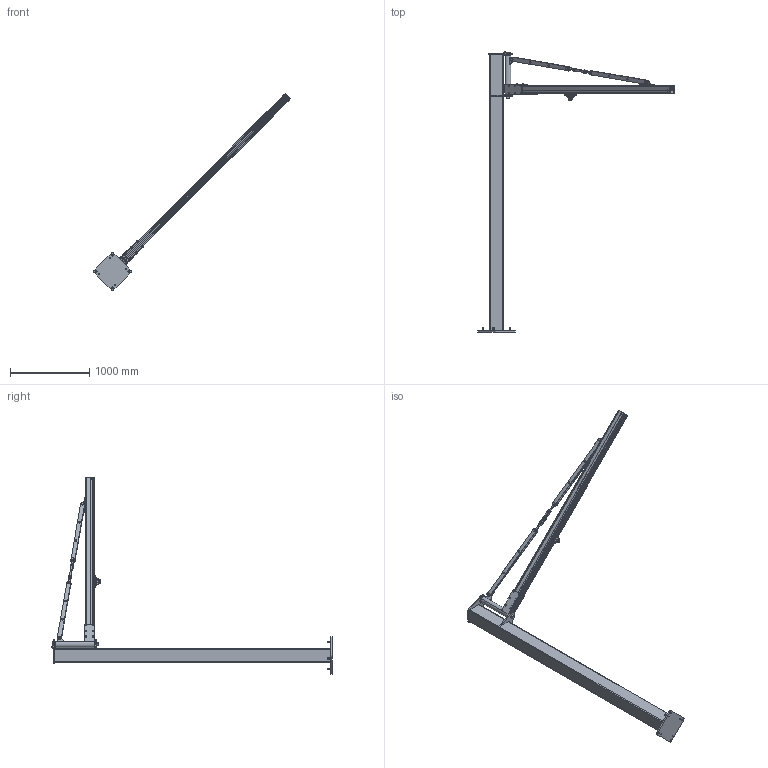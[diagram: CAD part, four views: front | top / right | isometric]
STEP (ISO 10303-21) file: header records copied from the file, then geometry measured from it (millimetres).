
FILE_DESCRIPTION (( 'STEP AP203' ), '1' );
FILE_NAME ('900.3000.3000.125.STEP', '2018-03-09T13:18:00', ( '' ), ( '' ), 'SwSTEP 2.0', 'SolidWorks 2016', '' );
FILE_SCHEMA (( 'CONFIG_CONTROL_DESIGN' ));
Length unit declared in the file: millimetre
Products named in the file (42): circlip for shafts normal_din_Circlip DIN 471 - 20 x 1.2; 900.200.017; VITI TE UNI 5739_M8x30 UNI 5739; GRANI A PUNTA CONICA UNI 5927_M6x16 UNI 5927; 900.3000.3000.125; 900.300.102-1; 900.3000.3000.125.008; VITI TE UNI 5739_M8x25 UNI 5739; 900.3000.3000.125.007; 900.100.021; 900.400.002; CUSCINETTI A SFERE_6002-2Z; circlip for shafts normal_din_Circlip DIN 471 - 15 x 1; tensioner_114410020_2; 900.200.003-2; DADI ESAGONALI AUTOBLOCCANTI UNI 7473_M12 UNI 7473; tensioner_114410020_3; plain washer chamfered grade a_iso_Washer ISO 7090 - 6; Assieme3^900.200.103; 900.200.005; 900.3000.3000.125.006; RONDELLE UNI 6592_13x24 UNI 6592; VITI TE UNI 5739_M12x50 UNI 5739; Tensionatore; DADO ESAGONALE M20 AUTOBLOCCANTE_M20 UNI7473; 900.3000.3000.125.001_Default<A macchina>; VITI TE UNI 5739_M6x40 UNI 5739; CUSCINETTI A SFERE_686-ZZ; RONDELLE UNI 6592_8.4x17 UNI 6592; 900.3000.3000.125.004; 900.200.004-2; 900.300.003; 900.200.103; DADI ESAGONALI NORMALI UNI 5588_M12 UNI 5588; 900.3000.3000.125.005; tensioner_114410020_1; RONDELLE UNI 6592 INOX_6.4x12.5 UNI 6592 INOX; 900.3000.3000.125.003_Default<A macchina>; PUFFER FEMMINA_M6; 900.3000.3000.125.002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
Assembly tree (118 placements, depth 4):
  900.3000.3000.125
    900.3000.3000.125.001_Default<A macchina>
    900.3000.3000.125.002
    900.3000.3000.125.003_Default<A macchina>
    900.3000.3000.125.004
    900.3000.3000.125.005
    900.400.002
    Tensionatore
      tensioner_114410020_1
      tensioner_114410020_2
      tensioner_114410020_3
    900.3000.3000.125.006  x2
    VITI TE UNI 5739_M20X60 UNI 5739  x4
    DADO ESAGONALE M20 AUTOBLOCCANTE_M20 UNI7473  x4
    VITI TE UNI 5739_M12x50 UNI 5739  x8
    DADI ESAGONALI AUTOBLOCCANTI UNI 7473_M12 UNI 7473  x4
    VITI TE UNI 5739_M8x25 UNI 5739  x14
    RONDELLE UNI 6592_8.4x17 UNI 6592  x15
    084.302.000 DADI ALUSIC 13x13-1_084.302.004  x12
    900.3000.3000.125.007
    900.3000.3000.125.008
    VITI TE UNI 5739_M8x30 UNI 5739
    RONDELLE UNI 6592_13x24 UNI 6592  x4
    DADI ESAGONALI NORMALI UNI 5588_M12 UNI 5588  x4
    900.300.102-1
      900.300.003
      circlip for shafts normal_din_Circlip DIN 471 - 15 x 1  x2
    900.200.103
      900.200.017
      Assieme3^900.200.103  x4
        900.200.005
        900.200.003-2
        CUSCINETTI A SFERE_6002-2Z
        circlip for shafts normal_din_Circlip DIN 471 - 15 x 1
      900.200.004-2  x2
      CUSCINETTI A SFERE_686-ZZ  x2
      RONDELLE UNI 6592 INOX_6.4x12.5 UNI 6592 INOX  x2
      900.100.021
      circlip for shafts normal_din_Circlip DIN 471 - 20 x 1.2  x2
      GRANI A PUNTA CONICA UNI 5927_M6x16 UNI 5927  x2
      PUFFER FEMMINA_M6  x2
      plain washer chamfered grade a_iso_Washer ISO 7090 - 6  x2
      VITI TE UNI 5739_M6x40 UNI 5739  x2
Bounding box: 2478.12 x 3536.93 x 2478.02 mm (x, y, z)
Volume: 27332613.1 mm3; surface area: 10936365.9 mm2
Topology: 164 solids, 164 shells, 3495 faces, 8102 edges, 5049 vertices
Faces by surface type: plane 1109, cylinder 1108, cone 640, bspline 346, torus 292
Entity records: 65801 total; most frequent: CARTESIAN_POINT 19960, ORIENTED_EDGE 8210, DIRECTION 8129, EDGE_CURVE 4105, AXIS2_PLACEMENT_3D 3238, VERTEX_POINT 2557, EDGE_LOOP 1964, FACE_OUTER_BOUND 1735
